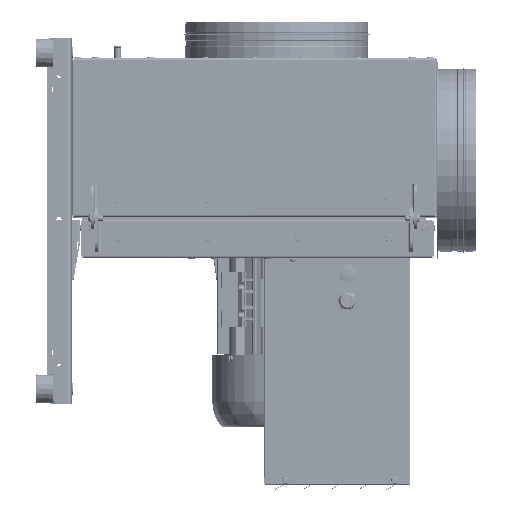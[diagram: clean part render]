
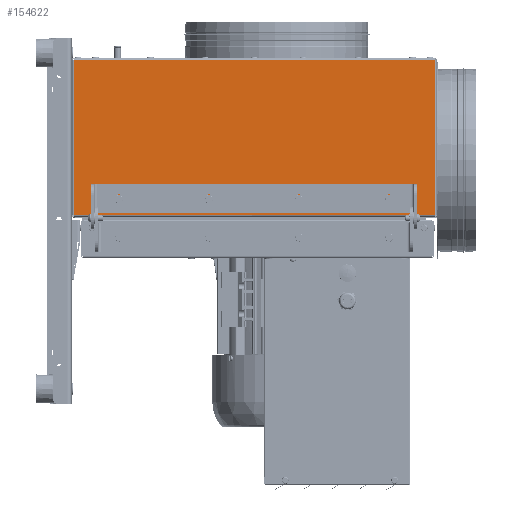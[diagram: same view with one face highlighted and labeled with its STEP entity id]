
A CAD part, left-side view. The second image highlights one B-rep face of the part: STEP entity #154622.
In plain terms, the highlighted planar face has unit normal (-1, 0, 0).
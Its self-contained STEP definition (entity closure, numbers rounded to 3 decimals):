
#7947=PLANE('',#166513);
#12117=LINE('',#231403,#23305);
#12118=LINE('',#231406,#23306);
#12119=LINE('',#231408,#23307);
#12120=LINE('',#231409,#23308);
#23305=VECTOR('',#184721,10.);
#23306=VECTOR('',#184724,10.);
#23307=VECTOR('',#184725,10.);
#23308=VECTOR('',#184726,10.);
#34473=FACE_BOUND('',#46603,.T.);
#34474=FACE_BOUND('',#46604,.T.);
#34475=FACE_BOUND('',#46605,.T.);
#34476=FACE_BOUND('',#46606,.T.);
#37015=FACE_OUTER_BOUND('',#46602,.T.);
#46602=EDGE_LOOP('',(#105834,#105835,#105836,#105837));
#46603=EDGE_LOOP('',(#105838));
#46604=EDGE_LOOP('',(#105839));
#46605=EDGE_LOOP('',(#105840));
#46606=EDGE_LOOP('',(#105841));
#58352=CIRCLE('',#166400,4.6);
#58354=CIRCLE('',#166403,4.6);
#58356=CIRCLE('',#166406,4.6);
#58358=CIRCLE('',#166409,4.6);
#66968=VERTEX_POINT('',#230819);
#66970=VERTEX_POINT('',#230824);
#66972=VERTEX_POINT('',#230829);
#66974=VERTEX_POINT('',#230834);
#67016=VERTEX_POINT('',#231038);
#67032=VERTEX_POINT('',#231149);
#67060=VERTEX_POINT('',#231405);
#67061=VERTEX_POINT('',#231407);
#82237=EDGE_CURVE('',#66968,#66968,#58352,.T.);
#82239=EDGE_CURVE('',#66970,#66970,#58354,.T.);
#82241=EDGE_CURVE('',#66972,#66972,#58356,.T.);
#82243=EDGE_CURVE('',#66974,#66974,#58358,.T.);
#82368=EDGE_CURVE('',#67016,#67032,#12117,.T.);
#82369=EDGE_CURVE('',#67060,#67032,#12118,.T.);
#82370=EDGE_CURVE('',#67060,#67061,#12119,.T.);
#82371=EDGE_CURVE('',#67061,#67016,#12120,.T.);
#105834=ORIENTED_EDGE('',*,*,#82368,.T.);
#105835=ORIENTED_EDGE('',*,*,#82369,.F.);
#105836=ORIENTED_EDGE('',*,*,#82370,.T.);
#105837=ORIENTED_EDGE('',*,*,#82371,.T.);
#105838=ORIENTED_EDGE('',*,*,#82237,.T.);
#105839=ORIENTED_EDGE('',*,*,#82239,.T.);
#105840=ORIENTED_EDGE('',*,*,#82241,.T.);
#105841=ORIENTED_EDGE('',*,*,#82243,.T.);
#154622=ADVANCED_FACE('',(#37015,#34473,#34474,#34475,#34476),#7947,.T.);
#166400=AXIS2_PLACEMENT_3D('',#230820,#184432,#184433);
#166403=AXIS2_PLACEMENT_3D('',#230825,#184438,#184439);
#166406=AXIS2_PLACEMENT_3D('',#230830,#184444,#184445);
#166409=AXIS2_PLACEMENT_3D('',#230835,#184450,#184451);
#166513=AXIS2_PLACEMENT_3D('',#231404,#184722,#184723);
#184432=DIRECTION('center_axis',(1.,0.,0.));
#184433=DIRECTION('ref_axis',(0.,0.,
1.));
#184438=DIRECTION('center_axis',(1.,0.,0.));
#184439=DIRECTION('ref_axis',(0.,0.,
1.));
#184444=DIRECTION('center_axis',(1.,0.,0.));
#184445=DIRECTION('ref_axis',(0.,0.,
1.));
#184450=DIRECTION('center_axis',(1.,0.,0.));
#184451=DIRECTION('ref_axis',(0.,0.,
1.));
#184721=DIRECTION('',(0.,0.,-1.));
#184722=DIRECTION('center_axis',(-1.,0.,0.));
#184723=DIRECTION('ref_axis',(0.,0.,1.));
#184724=DIRECTION('',(0.,1.,0.));
#184725=DIRECTION('',(0.,0.,1.));
#184726=DIRECTION('',(0.,1.,0.));
#230819=CARTESIAN_POINT('',(-1.5,191.85,439.6));
#230820=CARTESIAN_POINT('Origin',(-1.5,191.85,435.));
#230824=CARTESIAN_POINT('',(-1.5,191.85,316.267));
#230825=CARTESIAN_POINT('Origin',(-1.5,191.85,311.667));
#230829=CARTESIAN_POINT('',(-1.5,191.85,192.933));
#230830=CARTESIAN_POINT('Origin',(-1.5,191.85,188.333));
#230834=CARTESIAN_POINT('',(-1.5,191.85,69.6));
#230835=CARTESIAN_POINT('Origin',(-1.5,191.85,65.));
#231038=CARTESIAN_POINT('',(-1.5,213.,497.));
#231149=CARTESIAN_POINT('',(-1.5,213.,3.));
#231403=CARTESIAN_POINT('',(-1.5,213.,241.75));
#231404=CARTESIAN_POINT('Origin',(-1.5,216.,1.5));
#231405=CARTESIAN_POINT('',(-1.5,1.5,3.));
#231406=CARTESIAN_POINT('',(-1.5,216.,3.));
#231407=CARTESIAN_POINT('',(-1.5,1.5,497.));
#231408=CARTESIAN_POINT('',(-1.5,1.5,9.75));
#231409=CARTESIAN_POINT('',(-1.5,108.,497.));
